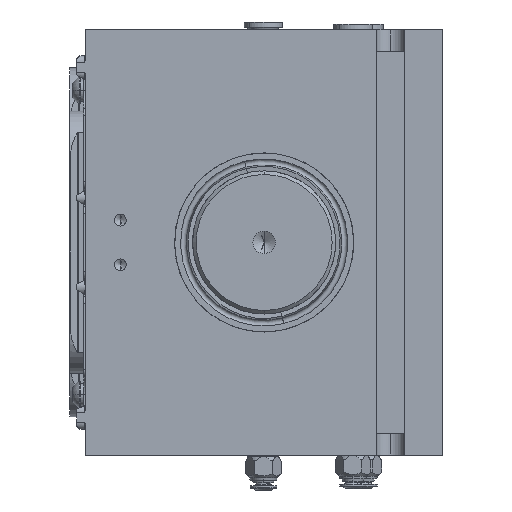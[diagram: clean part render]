
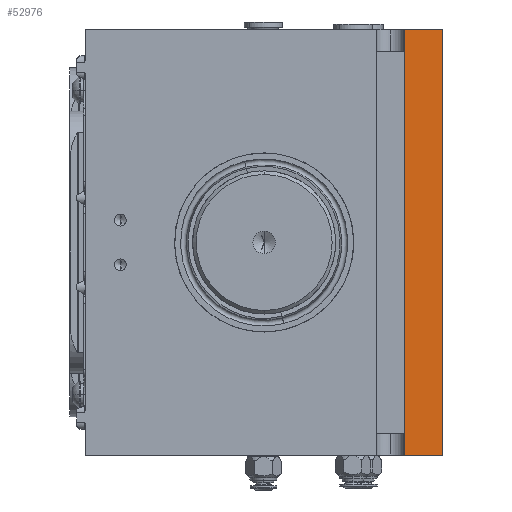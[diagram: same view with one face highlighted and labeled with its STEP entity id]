
A CAD part, left-side view. The second image highlights one B-rep face of the part: STEP entity #52976.
In plain terms, the highlighted planar face has unit normal (-1, 0, 0).
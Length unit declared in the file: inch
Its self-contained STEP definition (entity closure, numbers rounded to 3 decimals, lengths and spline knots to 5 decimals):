
#2699 = CARTESIAN_POINT ( 'NONE',  ( -6.125, -4.87493, -2.96875 ) ) ;
#8585 = PLANE ( 'NONE',  #55505 ) ;
#9454 = CARTESIAN_POINT ( 'NONE',  ( -6.125, -4.87493, 2.96875 ) ) ;
#13720 = LINE ( 'NONE', #2699, #57350 ) ;
#14126 = DIRECTION ( 'NONE',  ( 0., 0., 1. ) ) ;
#14332 = VERTEX_POINT ( 'NONE', #9454 ) ;
#15119 = EDGE_CURVE ( 'NONE', #19148, #14332, #13720, .T. ) ;
#15675 = VECTOR ( 'NONE', #50178, 39.37008 ) ;
#17407 = ORIENTED_EDGE ( 'NONE', *, *, #48518, .T. ) ;
#17511 = ORIENTED_EDGE ( 'NONE', *, *, #31053, .T. ) ;
#19067 = DIRECTION ( 'NONE',  ( 0., 0., -1. ) ) ;
#19148 = VERTEX_POINT ( 'NONE', #38533 ) ;
#20583 = EDGE_CURVE ( 'NONE', #68691, #22889, #52095, .T. ) ;
#22889 = VERTEX_POINT ( 'NONE', #44151 ) ;
#23005 = CARTESIAN_POINT ( 'NONE',  ( -6.125, 0.10487, -2.96875 ) ) ;
#24808 = DIRECTION ( 'NONE',  ( -1., 0., 0. ) ) ;
#31053 = EDGE_CURVE ( 'NONE', #22889, #19148, #45386, .T. ) ;
#31977 = VECTOR ( 'NONE', #46437, 39.37008 ) ;
#34806 = ORIENTED_EDGE ( 'NONE', *, *, #20583, .T. ) ;
#38533 = CARTESIAN_POINT ( 'NONE',  ( -6.125, -4.87493, -2.96875 ) ) ;
#40564 = LINE ( 'NONE', #56740, #31977 ) ;
#42650 = ORIENTED_EDGE ( 'NONE', *, *, #15119, .T. ) ;
#44151 = CARTESIAN_POINT ( 'NONE',  ( -6.125, -4.34993, -2.96875 ) ) ;
#45386 = LINE ( 'NONE', #23005, #15675 ) ;
#46437 = DIRECTION ( 'NONE',  ( 0., 1., 0. ) ) ;
#46464 = EDGE_LOOP ( 'NONE', ( #34806, #17511, #42650, #17407 ) ) ;
#48518 = EDGE_CURVE ( 'NONE', #14332, #68691, #40564, .T. ) ;
#50178 = DIRECTION ( 'NONE',  ( 0., -1., 0. ) ) ;
#52095 = LINE ( 'NONE', #53181, #55615 ) ;
#52976 = ADVANCED_FACE ( 'NONE', ( #53042 ), #8585, .T. ) ;
#53042 = FACE_OUTER_BOUND ( 'NONE', #46464, .T. ) ;
#53181 = CARTESIAN_POINT ( 'NONE',  ( -6.125, -4.34993, 2.96875 ) ) ;
#54457 = CARTESIAN_POINT ( 'NONE',  ( -6.125, -4.34993, 2.96875 ) ) ;
#55505 = AXIS2_PLACEMENT_3D ( 'NONE', #64759, #24808, #14126 ) ;
#55615 = VECTOR ( 'NONE', #19067, 39.37008 ) ;
#56740 = CARTESIAN_POINT ( 'NONE',  ( -6.125, -4.87493, 2.96875 ) ) ;
#57350 = VECTOR ( 'NONE', #64373, 39.37008 ) ;
#64373 = DIRECTION ( 'NONE',  ( 0., 0., 1. ) ) ;
#64759 = CARTESIAN_POINT ( 'NONE',  ( -6.125, 0.11987, -0.73794 ) ) ;
#68691 = VERTEX_POINT ( 'NONE', #54457 ) ;
